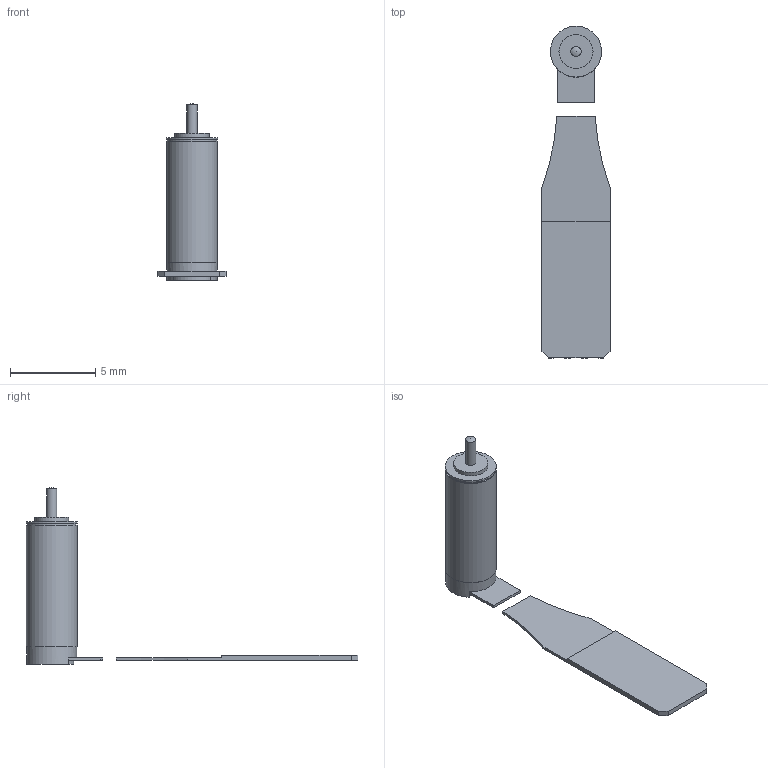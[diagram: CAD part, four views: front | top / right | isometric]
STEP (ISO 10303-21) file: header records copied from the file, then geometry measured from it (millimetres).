
FILE_DESCRIPTION(/* description */ (''),/* implementation_level */ '2;1');
FILE_NAME(/* name */ '0308H_B.stp',/* time_stamp */ '2017-07-13T15:29:07+02:00',/* author */ ('DR. FRITZ FAULHABER GmbH & Co. KG'),/* organization */ ('DR. FRITZ FAULHABER GmbH & Co. KG'),/* preprocessor_version */ 'ST-DEVELOPER v16',/* originating_system */ 'SIEMENS PLM Software NX 10.0',/* authorisation */ '');
FILE_SCHEMA (('AUTOMOTIVE_DESIGN { 1 0 10303 214 3 1 1 1 }'));
Length unit declared in the file: millimetre
Products named in the file (1): Alle_Motoren
Bounding box: 4 x 19.5 x 10.4 mm (x, y, z)
Volume: 73.6 mm3; surface area: 219.9 mm2
Topology: 2 solids, 2 shells, 64 faces, 162 edges, 108 vertices
Faces by surface type: plane 45, cylinder 11, extrusion 7, sphere 1
Full cylindrical faces by diameter (mm): 0.6 x1, 2 x1, 2.9 x1, 2.95 x1, 3 x2
Entity records: 2035 total; most frequent: CARTESIAN_POINT 555, ORIENTED_EDGE 300, DIRECTION 266, EDGE_CURVE 150, VECTOR 104, VERTEX_POINT 103, LINE 97, AXIS2_PLACEMENT_3D 81
